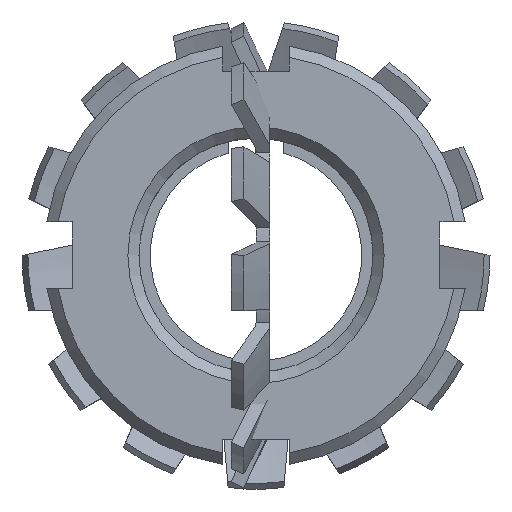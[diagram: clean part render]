
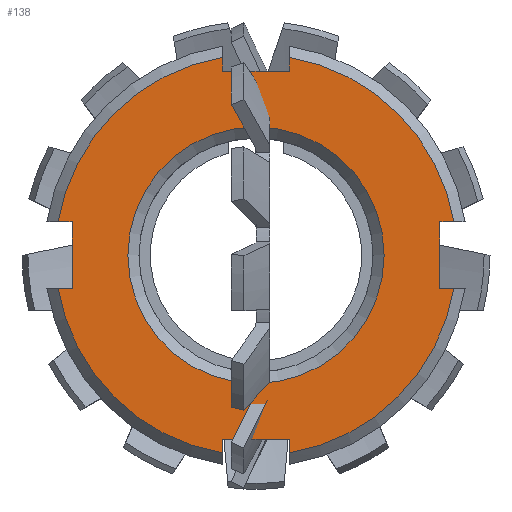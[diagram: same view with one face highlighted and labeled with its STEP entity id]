
A CAD part, front view. The second image highlights one B-rep face of the part: STEP entity #138.
In plain terms, the highlighted planar face has unit normal (0, -1, 0).
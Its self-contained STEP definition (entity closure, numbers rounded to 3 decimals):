
#138 = ADVANCED_FACE( '', ( #268, #269 ), #270, .F. );
#268 = FACE_BOUND( '', #398, .T. );
#269 = FACE_OUTER_BOUND( '', #399, .T. );
#270 = PLANE( '', #400 );
#398 = EDGE_LOOP( '', ( #776 ) );
#399 = EDGE_LOOP( '', ( #777, #778, #779, #780, #781, #782, #783, #784, #785, #786, #787, #788, #789, #790, #791, #792 ) );
#400 = AXIS2_PLACEMENT_3D( '', #793, #794, #795 );
#776 = ORIENTED_EDGE( '', *, *, #1096, .F. );
#777 = ORIENTED_EDGE( '', *, *, #1081, .F. );
#778 = ORIENTED_EDGE( '', *, *, #1113, .T. );
#779 = ORIENTED_EDGE( '', *, *, #1048, .T. );
#780 = ORIENTED_EDGE( '', *, *, #1010, .T. );
#781 = ORIENTED_EDGE( '', *, *, #1125, .F. );
#782 = ORIENTED_EDGE( '', *, *, #1121, .T. );
#783 = ORIENTED_EDGE( '', *, *, #1092, .T. );
#784 = ORIENTED_EDGE( '', *, *, #1064, .T. );
#785 = ORIENTED_EDGE( '', *, *, #1119, .F. );
#786 = ORIENTED_EDGE( '', *, *, #1013, .T. );
#787 = ORIENTED_EDGE( '', *, *, #1032, .T. );
#788 = ORIENTED_EDGE( '', *, *, #1107, .T. );
#789 = ORIENTED_EDGE( '', *, *, #1027, .F. );
#790 = ORIENTED_EDGE( '', *, *, #1088, .T. );
#791 = ORIENTED_EDGE( '', *, *, #1126, .T. );
#792 = ORIENTED_EDGE( '', *, *, #1127, .T. );
#793 = CARTESIAN_POINT( '', ( 0., -10.25, 19. ) );
#794 = DIRECTION( '', ( 0., 1., 0. ) );
#795 = DIRECTION( '', ( 0., 0., 1. ) );
#1010 = EDGE_CURVE( '', #1306, #1310, #1312, .F. );
#1013 = EDGE_CURVE( '', #1317, #1315, #1318, .T. );
#1027 = EDGE_CURVE( '', #1341, #1343, #1344, .T. );
#1032 = EDGE_CURVE( '', #1315, #1350, #1352, .T. );
#1048 = EDGE_CURVE( '', #1378, #1306, #1379, .T. );
#1064 = EDGE_CURVE( '', #1399, #1403, #1405, .F. );
#1081 = EDGE_CURVE( '', #1431, #1433, #1434, .T. );
#1088 = EDGE_CURVE( '', #1341, #1440, #1442, .T. );
#1092 = EDGE_CURVE( '', #1446, #1399, #1447, .T. );
#1096 = EDGE_CURVE( '', #1451, #1451, #1452, .T. );
#1107 = EDGE_CURVE( '', #1350, #1343, #1464, .F. );
#1113 = EDGE_CURVE( '', #1431, #1378, #1471, .T. );
#1119 = EDGE_CURVE( '', #1317, #1403, #1477, .T. );
#1121 = EDGE_CURVE( '', #1479, #1446, #1480, .T. );
#1125 = EDGE_CURVE( '', #1479, #1310, #1484, .T. );
#1126 = EDGE_CURVE( '', #1440, #1485, #1486, .T. );
#1127 = EDGE_CURVE( '', #1485, #1433, #1487, .F. );
#1306 = VERTEX_POINT( '', #2240 );
#1310 = VERTEX_POINT( '', #2247 );
#1312 = CIRCLE( '', #2252, 18. );
#1315 = VERTEX_POINT( '', #2255 );
#1317 = VERTEX_POINT( '', #2258 );
#1318 = LINE( '', #2259, #2260 );
#1341 = VERTEX_POINT( '', #2306 );
#1343 = VERTEX_POINT( '', #2309 );
#1344 = LINE( '', #2310, #2311 );
#1350 = VERTEX_POINT( '', #2321 );
#1352 = LINE( '', #2326, #2327 );
#1378 = VERTEX_POINT( '', #2371 );
#1379 = LINE( '', #2372, #2373 );
#1399 = VERTEX_POINT( '', #2399 );
#1403 = VERTEX_POINT( '', #2406 );
#1405 = CIRCLE( '', #2411, 18. );
#1431 = VERTEX_POINT( '', #2474 );
#1433 = VERTEX_POINT( '', #2477 );
#1434 = LINE( '', #2478, #2479 );
#1440 = VERTEX_POINT( '', #2490 );
#1442 = LINE( '', #2493, #2494 );
#1446 = VERTEX_POINT( '', #2498 );
#1447 = LINE( '', #2499, #2500 );
#1451 = VERTEX_POINT( '', #2506 );
#1452 = CIRCLE( '', #2507, 11.5 );
#1464 = CIRCLE( '', #2522, 18. );
#1471 = LINE( '', #2530, #2531 );
#1477 = LINE( '', #2537, #2538 );
#1479 = VERTEX_POINT( '', #2540 );
#1480 = LINE( '', #2541, #2542 );
#1484 = LINE( '', #2547, #2548 );
#1485 = VERTEX_POINT( '', #2549 );
#1486 = LINE( '', #2550, #2551 );
#1487 = CIRCLE( '', #2552, 18. );
#2240 = CARTESIAN_POINT( '', ( -17.748, -10.25, -3. ) );
#2247 = CARTESIAN_POINT( '', ( -3., -10.25, -17.748 ) );
#2252 = AXIS2_PLACEMENT_3D( '', #2811, #2812, #2813 );
#2255 = CARTESIAN_POINT( '', ( 16.5, -10.25, 3. ) );
#2258 = CARTESIAN_POINT( '', ( 16.5, -10.25, -3. ) );
#2259 = CARTESIAN_POINT( '', ( 16.5, -10.25, -3. ) );
#2260 = VECTOR( '', #2815, 1000. );
#2306 = CARTESIAN_POINT( '', ( 3., -10.25, 16.5 ) );
#2309 = CARTESIAN_POINT( '', ( 3., -10.25, 17.748 ) );
#2310 = CARTESIAN_POINT( '', ( 3., -10.25, 19. ) );
#2311 = VECTOR( '', #2824, 1000. );
#2321 = CARTESIAN_POINT( '', ( 17.748, -10.25, 3. ) );
#2326 = CARTESIAN_POINT( '', ( 19., -10.25, 3. ) );
#2327 = VECTOR( '', #2826, 1000. );
#2371 = CARTESIAN_POINT( '', ( -16.5, -10.25, -3. ) );
#2372 = CARTESIAN_POINT( '', ( -19., -10.25, -3. ) );
#2373 = VECTOR( '', #2839, 1000. );
#2399 = CARTESIAN_POINT( '', ( 3., -10.25, -17.748 ) );
#2406 = CARTESIAN_POINT( '', ( 17.748, -10.25, -3. ) );
#2411 = AXIS2_PLACEMENT_3D( '', #2861, #2862, #2863 );
#2474 = CARTESIAN_POINT( '', ( -16.5, -10.25, 3. ) );
#2477 = CARTESIAN_POINT( '', ( -17.748, -10.25, 3. ) );
#2478 = CARTESIAN_POINT( '', ( -19., -10.25, 3. ) );
#2479 = VECTOR( '', #2878, 1000. );
#2490 = CARTESIAN_POINT( '', ( -3., -10.25, 16.5 ) );
#2493 = CARTESIAN_POINT( '', ( 3., -10.25, 16.5 ) );
#2494 = VECTOR( '', #2882, 1000. );
#2498 = CARTESIAN_POINT( '', ( 3., -10.25, -16.5 ) );
#2499 = CARTESIAN_POINT( '', ( 3., -10.25, -19. ) );
#2500 = VECTOR( '', #2886, 1000. );
#2506 = CARTESIAN_POINT( '', ( 0., -10.25, -11.5 ) );
#2507 = AXIS2_PLACEMENT_3D( '', #2889, #2890, #2891 );
#2522 = AXIS2_PLACEMENT_3D( '', #2901, #2902, #2903 );
#2530 = CARTESIAN_POINT( '', ( -16.5, -10.25, 3. ) );
#2531 = VECTOR( '', #2911, 1000. );
#2537 = CARTESIAN_POINT( '', ( 19., -10.25, -3. ) );
#2538 = VECTOR( '', #2918, 1000. );
#2540 = CARTESIAN_POINT( '', ( -3., -10.25, -16.5 ) );
#2541 = CARTESIAN_POINT( '', ( -3., -10.25, -16.5 ) );
#2542 = VECTOR( '', #2919, 1000. );
#2547 = CARTESIAN_POINT( '', ( -3., -10.25, -19. ) );
#2548 = VECTOR( '', #2921, 1000. );
#2549 = CARTESIAN_POINT( '', ( -3., -10.25, 17.748 ) );
#2550 = CARTESIAN_POINT( '', ( -3., -10.25, 19. ) );
#2551 = VECTOR( '', #2922, 1000. );
#2552 = AXIS2_PLACEMENT_3D( '', #2923, #2924, #2925 );
#2811 = CARTESIAN_POINT( '', ( 0., -10.25, 0. ) );
#2812 = DIRECTION( '', ( 0., 1., 0. ) );
#2813 = DIRECTION( '', ( 0., 0., 1. ) );
#2815 = DIRECTION( '', ( 0., 0., 1. ) );
#2824 = DIRECTION( '', ( 0., 0., 1. ) );
#2826 = DIRECTION( '', ( 1., 0., 0. ) );
#2839 = DIRECTION( '', ( -1., 0., 0. ) );
#2861 = CARTESIAN_POINT( '', ( 0., -10.25, 0. ) );
#2862 = DIRECTION( '', ( 0., 1., 0. ) );
#2863 = DIRECTION( '', ( 0., 0., 1. ) );
#2878 = DIRECTION( '', ( -1., 0., 0. ) );
#2882 = DIRECTION( '', ( -1., 0., 0. ) );
#2886 = DIRECTION( '', ( 0., 0., -1. ) );
#2889 = CARTESIAN_POINT( '', ( 0., -10.25, 0. ) );
#2890 = DIRECTION( '', ( 0., -1., 0. ) );
#2891 = DIRECTION( '', ( 0., 0., -1. ) );
#2901 = CARTESIAN_POINT( '', ( 0., -10.25, 0. ) );
#2902 = DIRECTION( '', ( 0., 1., 0. ) );
#2903 = DIRECTION( '', ( 0., 0., 1. ) );
#2911 = DIRECTION( '', ( 0., 0., -1. ) );
#2918 = DIRECTION( '', ( 1., 0., 0. ) );
#2919 = DIRECTION( '', ( 1., 0., 0. ) );
#2921 = DIRECTION( '', ( 0., 0., -1. ) );
#2922 = DIRECTION( '', ( 0., 0., 1. ) );
#2923 = CARTESIAN_POINT( '', ( 0., -10.25, 0. ) );
#2924 = DIRECTION( '', ( 0., 1., 0. ) );
#2925 = DIRECTION( '', ( 0., 0., 1. ) );
